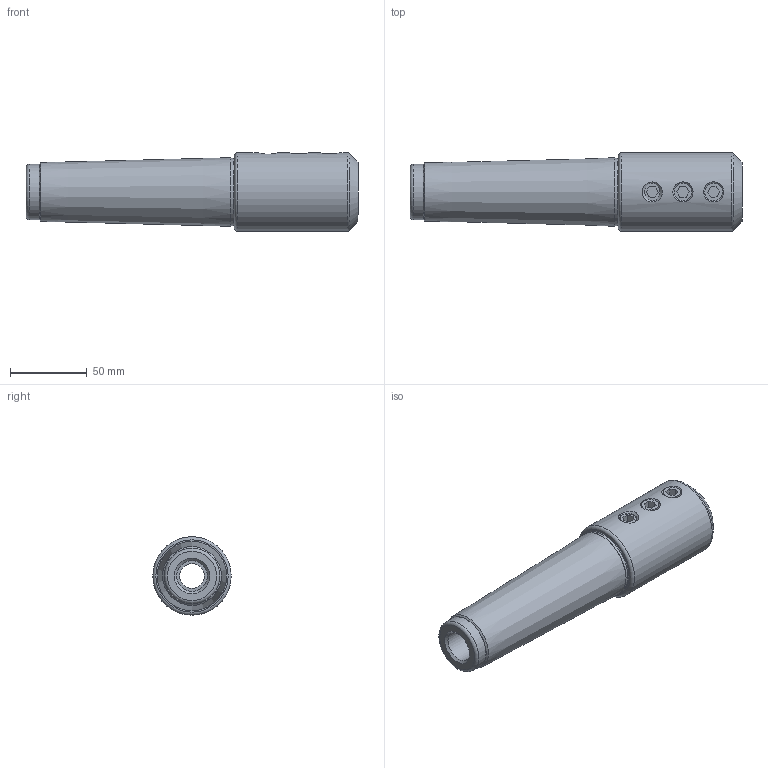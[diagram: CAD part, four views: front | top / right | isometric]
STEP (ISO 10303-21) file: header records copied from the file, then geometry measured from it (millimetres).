
FILE_DESCRIPTION(/* description */ (''),/* implementation_level */ '2;1');
FILE_NAME(/* name */ 'Z:\Проектный отдел\Алена\Патроны\MTB5-SLN25\MTB5-SLN25 сборка.stp',/* time_stamp */ '2023-12-29T11:30:34+03:00',/* author */ ('User'),/* organization */ (''),/* preprocessor_version */ 'ST-DEVELOPER v18',/* originating_system */ 'Autodesk Inventor 2020',/* authorisation */ '');
FILE_SCHEMA (('AUTOMOTIVE_DESIGN { 1 0 10303 214 3 1 1 }'));
Length unit declared in the file: millimetre
Products named in the file (3): MTB5-SLN25 сборка; MTB5-SLN25; Сухарик
Assembly tree (4 placements, depth 2):
  MTB5-SLN25 сборка
    MTB5-SLN25
    Сухарик  x3
Bounding box: 216 x 51 x 51 mm (x, y, z)
Volume: 280962.9 mm3; surface area: 48459.4 mm2
Topology: 4 solids, 4 shells, 56 faces, 139 edges, 98 vertices
Faces by surface type: plane 33, cylinder 11, cone 5, torus 4, bspline 3
Full cylindrical faces by diameter (mm): 10.106 x3, 11.5 x3, 16 x1, 20 x1, 36 x1, 44.1 x1, 51 x1
Entity records: 1936 total; most frequent: CARTESIAN_POINT 874, DIRECTION 203, ORIENTED_EDGE 186, EDGE_CURVE 93, AXIS2_PLACEMENT_3D 84, VERTEX_POINT 66, EDGE_LOOP 49, CIRCLE 43
